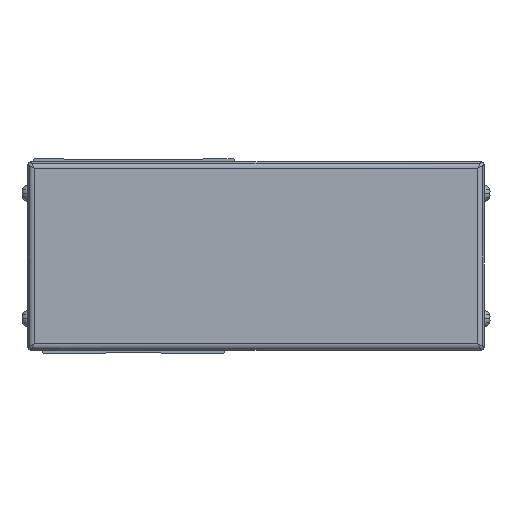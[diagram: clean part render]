
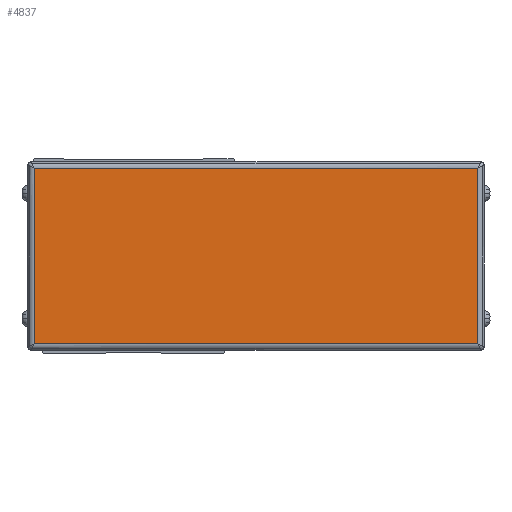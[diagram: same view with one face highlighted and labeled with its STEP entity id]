
A CAD part, front view. The second image highlights one B-rep face of the part: STEP entity #4837.
In plain terms, the highlighted planar face has unit normal (0, -1, 0).
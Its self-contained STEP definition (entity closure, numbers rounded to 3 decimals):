
#4837=ADVANCED_FACE('',(#9907),#9908,.T.);
#9907=FACE_OUTER_BOUND('',#16014,.T.);
#9908=PLANE('',#16015);
#16014=EDGE_LOOP('',(#29759,#29760,#29761,#29762));
#16015=AXIS2_PLACEMENT_3D('',#29763,#29764,#29765);
#29759=ORIENTED_EDGE('',*,*,#38550,.F.);
#29760=ORIENTED_EDGE('',*,*,#38551,.F.);
#29761=ORIENTED_EDGE('',*,*,#38552,.F.);
#29762=ORIENTED_EDGE('',*,*,#38553,.F.);
#29763=CARTESIAN_POINT('',(339.,131.,-4.));
#29764=DIRECTION('',(0.,-1.0,0.));
#29765=DIRECTION('',(0.,0.,1.0));
#38550=EDGE_CURVE('',#47439,#47440,#47441,.T.);
#38551=EDGE_CURVE('',#47442,#47439,#47443,.T.);
#38552=EDGE_CURVE('',#47444,#47442,#47445,.T.);
#38553=EDGE_CURVE('',#47440,#47444,#47446,.T.);
#47439=VERTEX_POINT('',#60139);
#47440=VERTEX_POINT('',#60140);
#47441=LINE('',#60141,#60142);
#47442=VERTEX_POINT('',#60143);
#47443=LINE('',#60144,#60145);
#47444=VERTEX_POINT('',#60146);
#47445=LINE('',#60147,#60148);
#47446=LINE('',#60149,#60150);
#60139=CARTESIAN_POINT('',(268.3,131.,24.));
#60140=CARTESIAN_POINT('',(409.7,131.,24.));
#60141=CARTESIAN_POINT('',(339.,131.,24.));
#60142=VECTOR('',#67280,10.0);
#60143=CARTESIAN_POINT('',(268.3,131.,-32.));
#60144=CARTESIAN_POINT('',(268.3,131.,-4.));
#60145=VECTOR('',#67281,10.0);
#60146=CARTESIAN_POINT('',(409.7,131.,-32.));
#60147=CARTESIAN_POINT('',(339.,131.,-32.));
#60148=VECTOR('',#67282,10.0);
#60149=CARTESIAN_POINT('',(409.7,131.,-4.));
#60150=VECTOR('',#67283,10.0);
#67280=DIRECTION('',(1.0,0.,0.));
#67281=DIRECTION('',(0.,0.,1.0));
#67282=DIRECTION('',(-1.0,0.,0.));
#67283=DIRECTION('',(0.,0.,-1.0));
